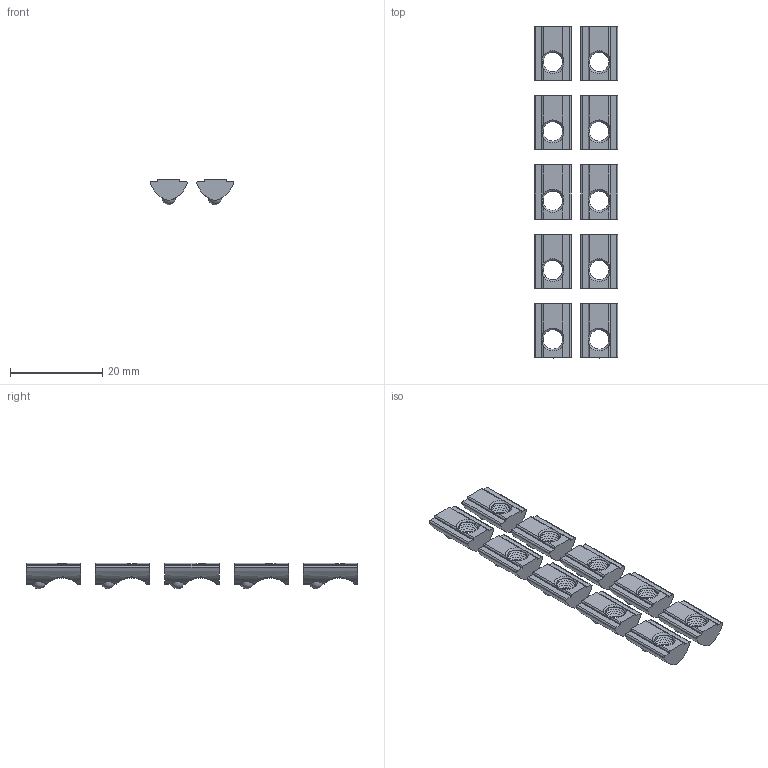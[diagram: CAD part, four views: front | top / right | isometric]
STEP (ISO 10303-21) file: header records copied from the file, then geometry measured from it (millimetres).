
FILE_DESCRIPTION(/* description */ ('T-nuts, M5 (10 pcs)'),/* implementation_level */ '2;1');
FILE_NAME(/* name */ 'D:\InventorWorkspace2017\CAD\Projekte_EDEM\HLR\0232.902.stp',/* time_stamp */ '2019-02-13T12:24:01+01:00',/* author */ ('AR64535'),/* organization */ (''),/* preprocessor_version */ 'ST-DEVELOPER v16.5',/* originating_system */ 'Autodesk Inventor 2017',/* authorisation */ '');
FILE_SCHEMA (('AUTOMOTIVE_DESIGN { 1 0 10303 214 3 1 1 }'));
Length unit declared in the file: millimetre
Products named in the file (2): 0232.902; 0231.921
Assembly tree (10 placements, depth 2):
  0232.902
    0231.921  x10
Bounding box: 18 x 71.8 x 5.5 mm (x, y, z)
Volume: 2181.3 mm3; surface area: 3713.4 mm2
Topology: 10 solids, 10 shells, 270 faces, 850 edges, 560 vertices
Faces by surface type: cylinder 100, plane 90, bspline 40, sphere 30, cone 10
Entity records: 2002 total; most frequent: CARTESIAN_POINT 1198, ORIENTED_EDGE 160, DIRECTION 144, EDGE_CURVE 80, AXIS2_PLACEMENT_3D 55, VERTEX_POINT 53, LINE 34, VECTOR 34
